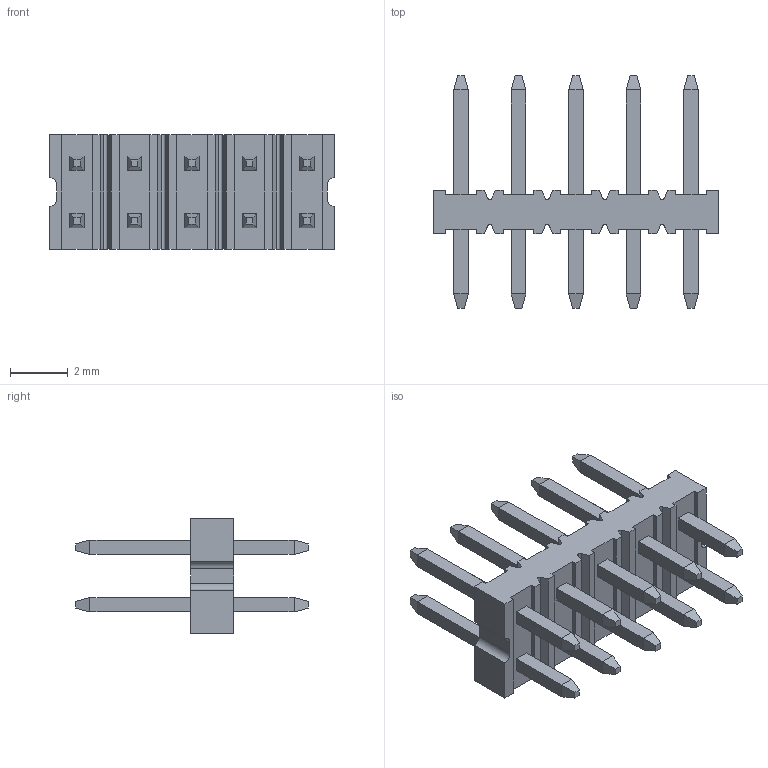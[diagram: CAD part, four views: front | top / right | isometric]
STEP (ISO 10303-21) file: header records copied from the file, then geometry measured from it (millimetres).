
FILE_DESCRIPTION((''),'2;1');
FILE_NAME('877581016','2018-12-12T',('gga'),(''),'PRO/ENGINEER BY PARAMETRIC TECHNOLOGY CORPORATION, 2016010','PRO/ENGINEER BY PARAMETRIC TECHNOLOGY CORPORATION, 2016010','');
FILE_SCHEMA(('CONFIG_CONTROL_DESIGN'));
Length unit declared in the file: millimetre
Products named in the file (1): 877581016
Bounding box: 9.9 x 8.1 x 4 mm (x, y, z)
Volume: 66 mm3; surface area: 270.2 mm2
Topology: 1 solids, 1 shells, 266 faces, 672 edges, 428 vertices
Faces by surface type: plane 254, cylinder 12
Entity records: 7777 total; most frequent: CARTESIAN_POINT 1347, ORIENTED_EDGE 1304, DIRECTION 1250, EDGE_CURVE 652, VECTOR 628, LINE 628, VERTEX_POINT 408, AXIS2_PLACEMENT_3D 311
